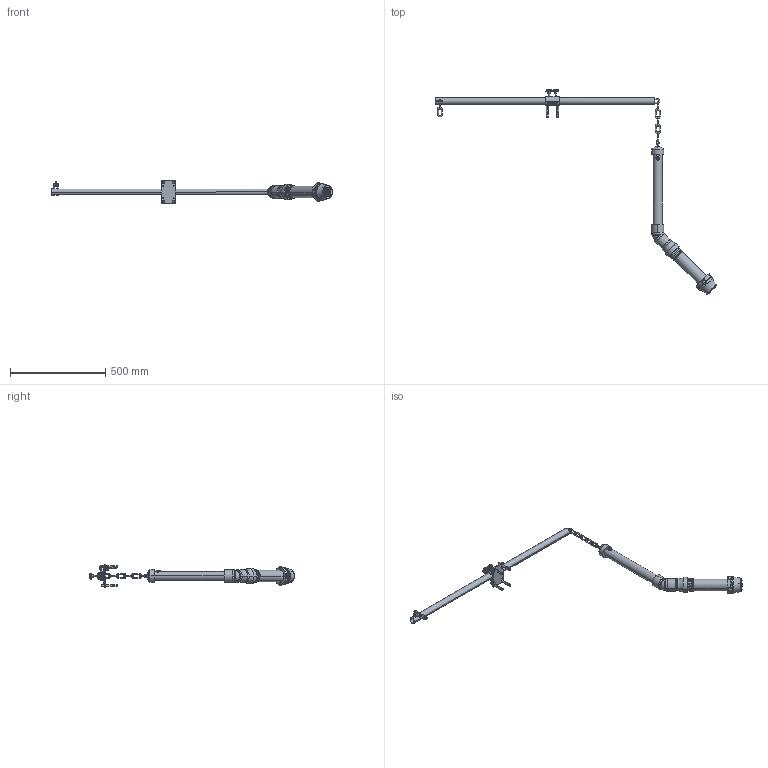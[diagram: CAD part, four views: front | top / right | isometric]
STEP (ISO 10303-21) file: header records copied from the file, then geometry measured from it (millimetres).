
FILE_DESCRIPTION (( 'STEP AP214' ), '1' );
FILE_NAME ('LZX914_TD_12400__001.STEP', '2014-02-25T11:04:34', ( 'helpdesk' ), ( 'Hach-Lange' ), 'SwSTEP 2.0', 'SolidWorks 2012', '' );
FILE_SCHEMA (( 'AUTOMOTIVE_DESIGN' ));
Length unit declared in the file: millimetre
Products named in the file (26): HHA284_Adapter_Reinigung; HAK096_Reinigungskappe; LXV440.TD.00000_ Sonde_mit Reinigung ohne Kabel; HRS251_Flachkopfschraube DIN923 Innensechskant; BVQ935.TD_Cartridge; LXV440#1.TD_Sondenkörper_ohne Kabel; EXA172_Reduzierstück 1,5  Zoll NPT - 1  Zoll NPT; EVQ213; EVQ213_H; EVQ213_S; EHG013; AXA008_01; XLT139_00.01; EVA205; HRO333; BAK056_00.01; AAK024_00.01_None; E07089_70_A_None; E04032_80_A_None; NND017_01_None; EVQ220_02_None; HVQ804; HHB011; HPP516; EXA173_Winkelstück 45 Grad 1,5 Zoll; LZX914_TD_12400__001
Assembly tree (42 placements, depth 3):
  LZX914_TD_12400__001
    EXA173_Winkelstück 45 Grad 1,5 Zoll
    HPP516
    HHB011
    HVQ804
    BAK056_00.01
      EVQ220_02_None
      NND017_01_None
      E04032_80_A_None  x2
      E07089_70_A_None  x2
      AAK024_00.01_None
    HRO333
    EVA205  x9
    AXA008_01
      XLT139_00.01
    EHG013  x2
    EVQ213  x4
      EVQ213_S
      EVQ213_H
    EXA172_Reduzierstück 1,5  Zoll NPT - 1  Zoll NPT
    LXV440.TD.00000_ Sonde_mit Reinigung ohne Kabel
      LXV440#1.TD_Sondenkörper_ohne Kabel
      BVQ935.TD_Cartridge
      HRS251_Flachkopfschraube DIN923 Innensechskant  x4
    HAK096_Reinigungskappe
    HHA284_Adapter_Reinigung
Bounding box: 1473.31 x 1073.48 x 120 mm (x, y, z)
Volume: 2214319.3 mm3; surface area: 685256.5 mm2
Topology: 46 solids, 46 shells, 2462 faces, 5984 edges, 3573 vertices
Faces by surface type: bspline 609, cylinder 518, torus 502, plane 427, cone 345, sphere 61
Entity records: 91816 total; most frequent: CARTESIAN_POINT 42579, ORIENTED_EDGE 10562, DIRECTION 9081, EDGE_CURVE 5281, AXIS2_PLACEMENT_3D 4058, VERTEX_POINT 3193, CIRCLE 2437, EDGE_LOOP 2274
